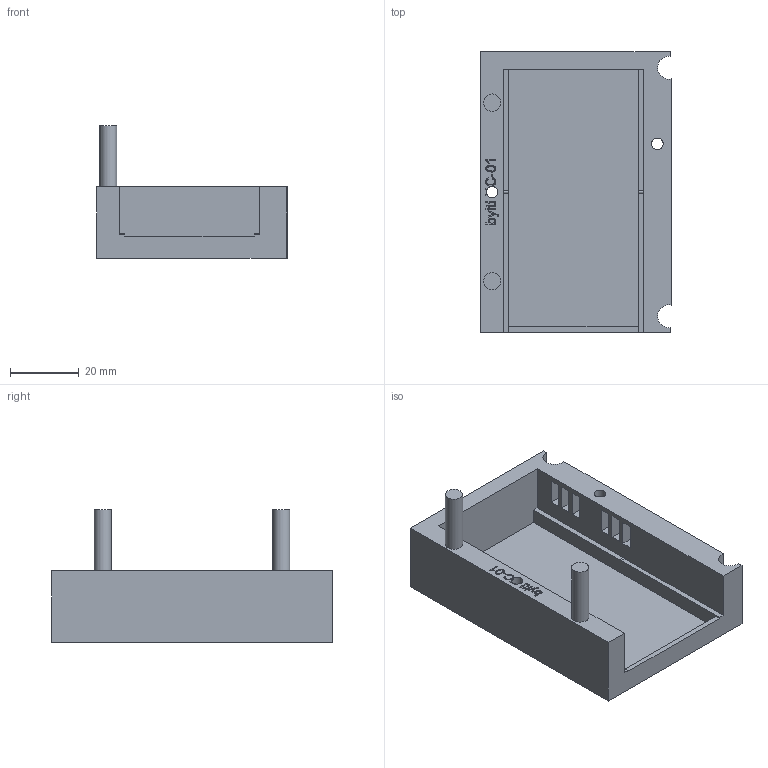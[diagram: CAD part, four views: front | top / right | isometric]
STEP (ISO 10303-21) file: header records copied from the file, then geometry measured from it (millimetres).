
FILE_DESCRIPTION(('Open CASCADE Model'),'2;1');
FILE_NAME('Open CASCADE Shape Model','2026-08-29T07:31:45',('Author'),( 'Open CASCADE'),'Open CASCADE STEP processor 7.9','build123d', 'Unknown');
FILE_SCHEMA(('AUTOMOTIVE_DESIGN { 1 0 10303 214 1 1 1 1 }'));
Length unit declared in the file: millimetre
Products named in the file (1): COMPOUND
Bounding box: 55.5 x 81.62 x 38.73 mm (x, y, z)
Volume: 36632.4 mm3; surface area: 19885.4 mm2
Topology: 1 solids, 1 shells, 207 faces, 568 edges, 378 vertices
Faces by surface type: plane 115, extrusion 80, cylinder 10, cone 2
Full cylindrical faces by diameter (mm): 2.5 x2, 3.4 x2, 5 x2
Entity records: 15209 total; most frequent: CARTESIAN_POINT 4931, DIRECTION 1414, ORIENTED_EDGE 1136, PCURVE 1136, DEFINITIONAL_REPRESENTATION 1136, VECTOR 1080, LINE 1000, B_SPLINE_CURVE_WITH_KNOTS 730
